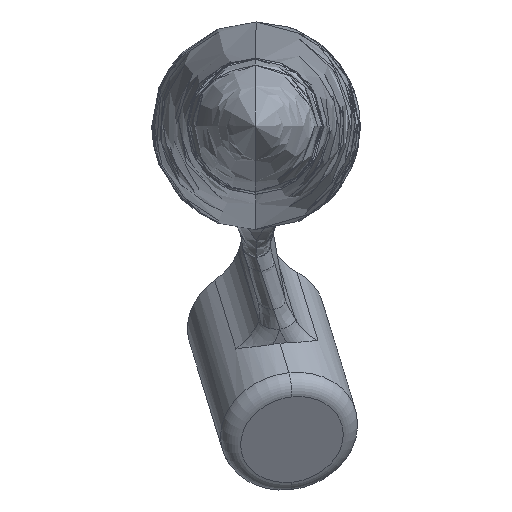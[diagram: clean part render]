
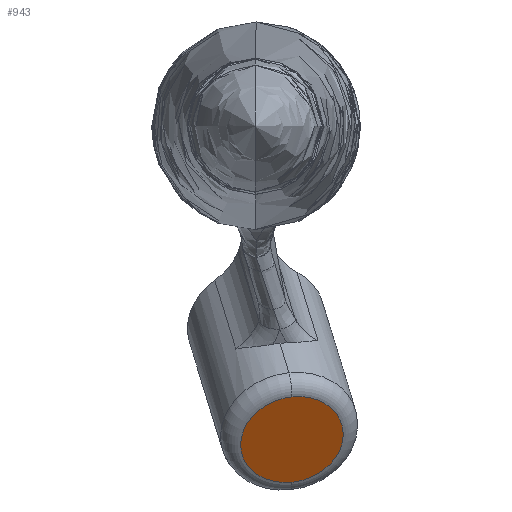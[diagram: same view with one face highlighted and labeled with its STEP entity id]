
A CAD part, left-side view. The second image highlights one B-rep face of the part: STEP entity #943.
In plain terms, the highlighted planar face has unit normal (-0.807, -0.173, -0.565).
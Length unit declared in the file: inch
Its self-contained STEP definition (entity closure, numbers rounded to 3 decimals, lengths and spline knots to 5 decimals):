
#751 = EDGE_LOOP ( 'NONE', ( #2565, #1561 ) ) ;
#769 = DIRECTION ( 'NONE',  ( 0.807, 0.173, 0.565 ) ) ;
#943 = ADVANCED_FACE ( 'NONE', ( #3934 ), #1955, .F. ) ;
#1171 = EDGE_CURVE ( 'NONE', #1851, #1729, #3356, .T. ) ;
#1561 = ORIENTED_EDGE ( 'NONE', *, *, #1171, .F. ) ;
#1586 = AXIS2_PLACEMENT_3D ( 'NONE', #3991, #2272, #1621 ) ;
#1621 = DIRECTION ( 'NONE',  ( 0.574, 0., -0.819 ) ) ;
#1729 = VERTEX_POINT ( 'NONE', #1770 ) ;
#1770 = CARTESIAN_POINT ( 'NONE',  ( 5.99547, -0.1028, -1.02398 ) ) ;
#1851 = VERTEX_POINT ( 'NONE', #3490 ) ;
#1955 = PLANE ( 'NONE',  #4248 ) ;
#2150 = CARTESIAN_POINT ( 'NONE',  ( 5.90943, -0.1028, -0.90111 ) ) ;
#2259 = DIRECTION ( 'NONE',  ( 0.807, 0.173, 0.565 ) ) ;
#2272 = DIRECTION ( 'NONE',  ( 0.807, 0.173, 0.565 ) ) ;
#2550 = AXIS2_PLACEMENT_3D ( 'NONE', #2150, #769, #3914 ) ;
#2565 = ORIENTED_EDGE ( 'NONE', *, *, #3357, .F. ) ;
#3343 = DIRECTION ( 'NONE',  ( 0.574, 0., -0.819 ) ) ;
#3356 = CIRCLE ( 'NONE', #2550, 0.15 ) ;
#3357 = EDGE_CURVE ( 'NONE', #1729, #1851, #3838, .T. ) ;
#3490 = CARTESIAN_POINT ( 'NONE',  ( 5.82339, -0.1028, -0.77824 ) ) ;
#3838 = CIRCLE ( 'NONE', #1586, 0.15 ) ;
#3914 = DIRECTION ( 'NONE',  ( 0.574, 0., -0.819 ) ) ;
#3934 = FACE_OUTER_BOUND ( 'NONE', #751, .T. ) ;
#3991 = CARTESIAN_POINT ( 'NONE',  ( 5.90943, -0.1028, -0.90111 ) ) ;
#4011 = CARTESIAN_POINT ( 'NONE',  ( 3.54193, -0.1028, 2.48009 ) ) ;
#4248 = AXIS2_PLACEMENT_3D ( 'NONE', #4011, #2259, #3343 ) ;
